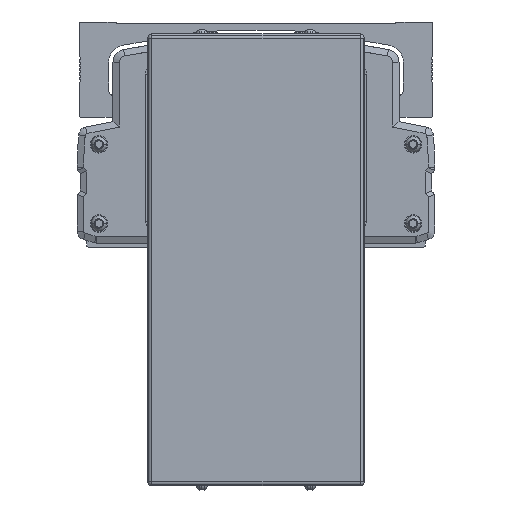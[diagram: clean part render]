
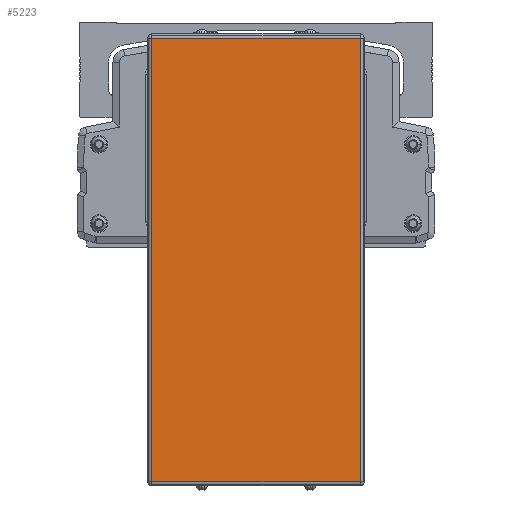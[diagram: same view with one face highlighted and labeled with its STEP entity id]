
A CAD part, front view. The second image highlights one B-rep face of the part: STEP entity #5223.
In plain terms, the highlighted planar face has unit normal (0, -1, 0).
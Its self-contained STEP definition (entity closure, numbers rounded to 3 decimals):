
#5223=ADVANCED_FACE('',(#11357),#11358,.T.);
#11357=FACE_OUTER_BOUND('',#20185,.T.);
#11358=PLANE('',#20186);
#20185=EDGE_LOOP('',(#36003,#36004,#36005,#36006));
#20186=AXIS2_PLACEMENT_3D('',#36007,#36008,#36009);
#36003=ORIENTED_EDGE('',*,*,#50833,.F.);
#36004=ORIENTED_EDGE('',*,*,#50834,.F.);
#36005=ORIENTED_EDGE('',*,*,#46138,.F.);
#36006=ORIENTED_EDGE('',*,*,#50835,.F.);
#36007=CARTESIAN_POINT('',(-600.,-222.778,-57.8));
#36008=DIRECTION('',(0.,-1.0,0.));
#36009=DIRECTION('',(0.,0.,-1.0));
#46138=EDGE_CURVE('',#55546,#55548,#55549,.T.);
#50833=EDGE_CURVE('',#55392,#62662,#62663,.T.);
#50834=EDGE_CURVE('',#55548,#55392,#62664,.T.);
#50835=EDGE_CURVE('',#62662,#55546,#62665,.T.);
#55392=VERTEX_POINT('',#68708);
#55546=VERTEX_POINT('',#68945);
#55548=VERTEX_POINT('',#68947);
#55549=LINE('',#68948,#68949);
#62662=VERTEX_POINT('',#79849);
#62663=LINE('',#79850,#79851);
#62664=LINE('',#79852,#79853);
#62665=LINE('',#79854,#79855);
#68708=CARTESIAN_POINT('',(-648.,-222.778,44.5));
#68945=CARTESIAN_POINT('',(-552.,-222.778,-160.1));
#68947=CARTESIAN_POINT('',(-648.,-222.778,-160.1));
#68948=CARTESIAN_POINT('',(-600.,-222.778,-160.1));
#68949=VECTOR('',#85042,10.0);
#79849=CARTESIAN_POINT('',(-552.,-222.778,44.5));
#79850=CARTESIAN_POINT('',(-600.,-222.778,44.5));
#79851=VECTOR('',#90675,10.0);
#79852=CARTESIAN_POINT('',(-648.,-222.778,-57.8));
#79853=VECTOR('',#90676,10.0);
#79854=CARTESIAN_POINT('',(-552.,-222.778,-57.8));
#79855=VECTOR('',#90677,10.0);
#85042=DIRECTION('',(-1.0,0.,0.));
#90675=DIRECTION('',(1.0,0.,0.));
#90676=DIRECTION('',(0.,0.,1.0));
#90677=DIRECTION('',(0.,0.,-1.0));
